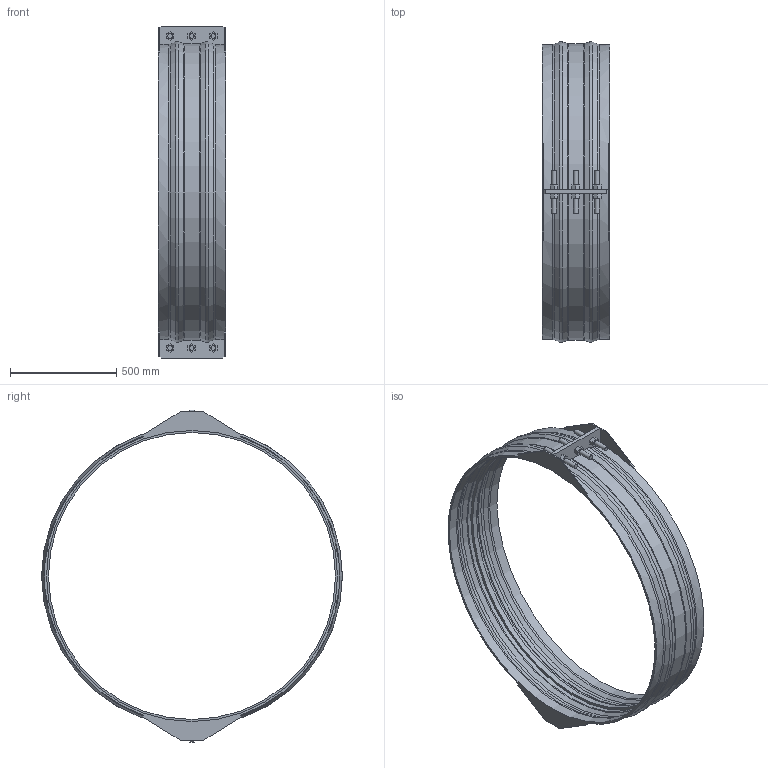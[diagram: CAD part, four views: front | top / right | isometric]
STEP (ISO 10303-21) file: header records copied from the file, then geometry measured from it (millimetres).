
FILE_DESCRIPTION(/* description */ ('VIC RESTRAINED COUPLING STYLE 233 (FLEX) (BRD)','CAx-IF Rec.Pracs.---Representation and Presentation of Product Manufacturing Information (PMI)---4.0---2014-10-13'),/* implementation_level */ '2;1');
FILE_NAME(/* name */ 'C:\Users\Vjadhav\Desktop\CAD for Inventor\Test for STEP\Vivek\Adsk_Inventor_Bolted Sleeve_iParts\STEP\Victaulic_VBSP_Coupling Flexible Restrained_Style 233 (BRD)\Victaulic_VBSP_Coupling Flexible Restrained_Style 233 (BRD)_150psi_54 (1350).stp',/* time_stamp */ '2020-09-24T12:30:17+05:00',/* author */ ('Vjadhav'),/* organization */ ('Victaulic'),/* preprocessor_version */ 'ST-DEVELOPER v17.2',/* originating_system */ 'Autodesk Inventor 2019',/* authorisation */ '');
FILE_SCHEMA (('AP242_MANAGED_MODEL_BASED_3D_ENGINEERING_MIM_LF { 1 0 10303 442 1 1 4 }'));
Length unit declared in the file: inch
Products named in the file (1): Style_233_Type_2_150psi-54.0
Bounding box: 317.5 x 1417.34 x 1564.64 mm (x, y, z)
Volume: 16941437.4 mm3; surface area: 3404856.6 mm2
Topology: 1 solids, 1 shells, 203 faces, 541 edges, 366 vertices
Faces by surface type: plane 134, cylinder 39, torus 18, cone 12
Full cylindrical faces by diameter (mm): 22.225 x12, 1352.55 x1, 1371.6 x2, 1377.95 x2
Entity records: 6848 total; most frequent: CARTESIAN_POINT 1320, DIRECTION 1095, ORIENTED_EDGE 1082, EDGE_CURVE 541, LINE 373, VECTOR 373, VERTEX_POINT 366, AXIS2_PLACEMENT_3D 361
